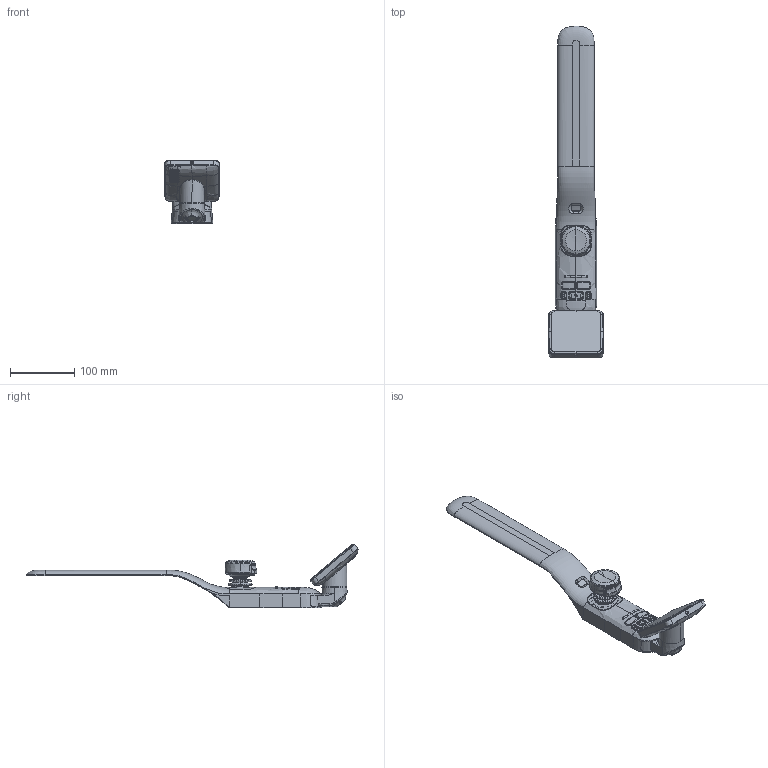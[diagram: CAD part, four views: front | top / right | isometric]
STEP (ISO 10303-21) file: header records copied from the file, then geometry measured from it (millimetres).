
FILE_DESCRIPTION (( 'STEP AP203' ), '1' );
FILE_NAME ('Screen+joystick.STEP', '2026-04-17T10:10:06', ( '' ), ( '' ), 'SwSTEP 2.0', 'SolidWorks 2023', '' );
FILE_SCHEMA (( 'CONFIG_CONTROL_DESIGN' ));
Length unit declared in the file: millimetre
Products named in the file (1): Screen+joystick
Bounding box: 85.01 x 518.42 x 99.58 mm (x, y, z)
Volume: 459883.1 mm3; surface area: 163546.5 mm2
Topology: 19 solids, 21 shells, 2991 faces, 8086 edges, 5160 vertices
Faces by surface type: plane 1052, bspline 1046, cylinder 516, cone 288, torus 79, sphere 10
Entity records: 212538 total; most frequent: CARTESIAN_POINT 150717, ORIENTED_EDGE 16160, EDGE_CURVE 8080, DIRECTION 7698, VERTEX_POINT 5160, B_SPLINE_CURVE_WITH_KNOTS 4793, EDGE_LOOP 3180, FACE_OUTER_BOUND 2991
